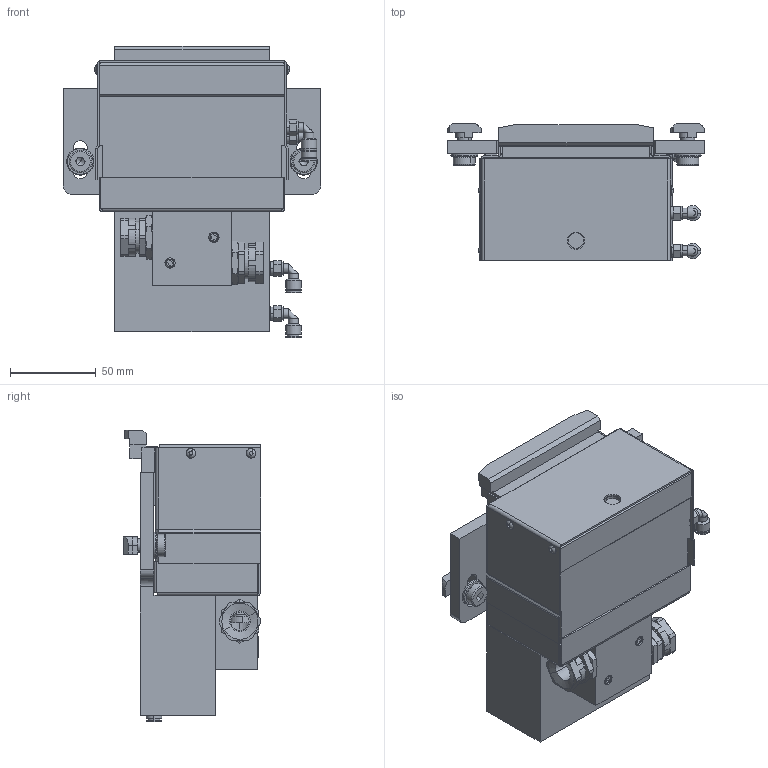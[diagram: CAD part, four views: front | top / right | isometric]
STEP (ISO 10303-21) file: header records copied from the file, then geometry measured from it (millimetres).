
FILE_DESCRIPTION (( 'STEP AP214' ), '1' );
FILE_NAME ('DDS-80-17-DW-FS_oben_ausgefahren.STEP', '2021-01-15T13:17:25', ( '' ), ( '' ), 'SwSTEP 2.0', 'SolidWorks 2019', '' );
FILE_SCHEMA (( 'AUTOMOTIVE_DESIGN' ));
Length unit declared in the file: millimetre
Products named in the file (1): DDS-80-17-DW-FS_oben_ausgefahren
Bounding box: 150 x 80.05 x 169.6 mm (x, y, z)
Volume: 839656.7 mm3; surface area: 155013.9 mm2
Topology: 8 solids, 17 shells, 985 faces, 2331 edges, 1461 vertices
Faces by surface type: plane 522, cylinder 353, cone 80, torus 22, sphere 8
Entity records: 29031 total; most frequent: CARTESIAN_POINT 5576, DIRECTION 5148, ORIENTED_EDGE 4630, EDGE_CURVE 2315, AXIS2_PLACEMENT_3D 1905, VERTEX_POINT 1461, LINE 1338, VECTOR 1338
